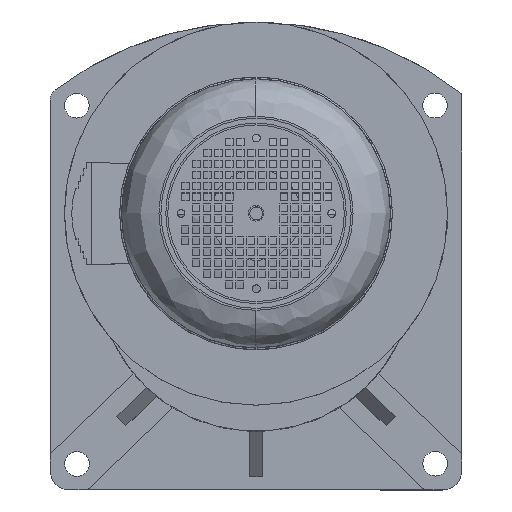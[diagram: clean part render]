
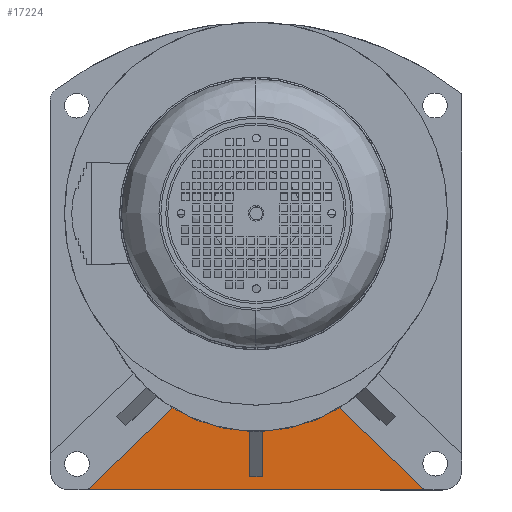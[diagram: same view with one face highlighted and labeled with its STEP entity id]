
A CAD part, top view. The second image highlights one B-rep face of the part: STEP entity #17224.
In plain terms, the highlighted planar face has unit normal (0, 0, 1).
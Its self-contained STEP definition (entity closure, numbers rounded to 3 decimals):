
#229 = ORIENTED_EDGE ( 'NONE', *, *, #18100, .T. ) ;
#1314 = VERTEX_POINT ( 'NONE', #8052 ) ;
#1426 = CARTESIAN_POINT ( 'NONE',  ( 129.821, -158., 17. ) ) ;
#1686 = CARTESIAN_POINT ( 'NONE',  ( 129.821, -158., 17. ) ) ;
#3013 = EDGE_CURVE ( 'NONE', #1314, #14337, #15826, .T. ) ;
#3484 = ORIENTED_EDGE ( 'NONE', *, *, #5063, .T. ) ;
#4590 = VECTOR ( 'NONE', #28333, 1000. ) ;
#4619 = ORIENTED_EDGE ( 'NONE', *, *, #31774, .F. ) ;
#5063 = EDGE_CURVE ( 'NONE', #9694, #1314, #22729, .T. ) ;
#5204 = FACE_OUTER_BOUND ( 'NONE', #26201, .T. ) ;
#6686 = VERTEX_POINT ( 'NONE', #35678 ) ;
#7074 = AXIS2_PLACEMENT_3D ( 'NONE', #9120, #9032, #8977 ) ;
#7200 = CARTESIAN_POINT ( 'NONE',  ( -64.101, -94.803, 17. ) ) ;
#7623 = DIRECTION ( 'NONE',  ( -0.721, 0.693, 0. ) ) ;
#8052 = CARTESIAN_POINT ( 'NONE',  ( 5., -148., 17. ) ) ;
#8977 = DIRECTION ( 'NONE',  ( -1., 0., 0. ) ) ;
#9032 = DIRECTION ( 'NONE',  ( 0., 0., 1. ) ) ;
#9120 = CARTESIAN_POINT ( 'NONE',  ( 0., 9.002, 17. ) ) ;
#9298 = LINE ( 'NONE', #1686, #37622 ) ;
#9403 = CIRCLE ( 'NONE', #7074, 122.002 ) ;
#9572 = EDGE_CURVE ( 'NONE', #14337, #12061, #32971, .T. ) ;
#9608 = CARTESIAN_POINT ( 'NONE',  ( -143.5, -158., 17. ) ) ;
#9694 = VERTEX_POINT ( 'NONE', #23722 ) ;
#9746 = DIRECTION ( 'NONE',  ( 1., 0., 0. ) ) ;
#10956 = VERTEX_POINT ( 'NONE', #7200 ) ;
#11320 = LINE ( 'NONE', #9608, #18313 ) ;
#12061 = VERTEX_POINT ( 'NONE', #26340 ) ;
#12854 = EDGE_CURVE ( 'NONE', #10956, #12061, #9403, .T. ) ;
#13370 = CARTESIAN_POINT ( 'NONE',  ( -129.821, -158., 17. ) ) ;
#13450 = DIRECTION ( 'NONE',  ( -0.721, -0.693, 0. ) ) ;
#14055 = CARTESIAN_POINT ( 'NONE',  ( 5., -143., 17. ) ) ;
#14144 = ORIENTED_EDGE ( 'NONE', *, *, #9572, .T. ) ;
#14337 = VERTEX_POINT ( 'NONE', #35379 ) ;
#14959 = DIRECTION ( 'NONE',  ( -1., 0., 0. ) ) ;
#15053 = CARTESIAN_POINT ( 'NONE',  ( -143.5, -148., 17. ) ) ;
#15088 = CIRCLE ( 'NONE', #40056, 122.002 ) ;
#15826 = LINE ( 'NONE', #15053, #22895 ) ;
#16091 = ORIENTED_EDGE ( 'NONE', *, *, #19107, .T. ) ;
#16771 = AXIS2_PLACEMENT_3D ( 'NONE', #32139, #32100, #32057 ) ;
#17224 = ADVANCED_FACE ( 'NONE', ( #5204 ), #32561, .T. ) ;
#18100 = EDGE_CURVE ( 'NONE', #10956, #22677, #31268, .T. ) ;
#18313 = VECTOR ( 'NONE', #9746, 1000. ) ;
#19107 = EDGE_CURVE ( 'NONE', #24553, #6686, #9298, .T. ) ;
#21838 = VECTOR ( 'NONE', #26589, 1000. ) ;
#22677 = VERTEX_POINT ( 'NONE', #31277 ) ;
#22729 = LINE ( 'NONE', #14055, #4590 ) ;
#22895 = VECTOR ( 'NONE', #14959, 1000. ) ;
#23722 = CARTESIAN_POINT ( 'NONE',  ( 5., -112.897, 17. ) ) ;
#24067 = ORIENTED_EDGE ( 'NONE', *, *, #33037, .T. ) ;
#24553 = VERTEX_POINT ( 'NONE', #1426 ) ;
#25746 = DIRECTION ( 'NONE',  ( -1., 0., 0. ) ) ;
#25845 = DIRECTION ( 'NONE',  ( 0., 0., 1. ) ) ;
#25894 = CARTESIAN_POINT ( 'NONE',  ( 0., 9.002, 17. ) ) ;
#26201 = EDGE_LOOP ( 'NONE', ( #3484, #26310, #14144, #36773, #229, #24067, #16091, #4619 ) ) ;
#26310 = ORIENTED_EDGE ( 'NONE', *, *, #3013, .T. ) ;
#26340 = CARTESIAN_POINT ( 'NONE',  ( -5., -112.897, 17. ) ) ;
#26352 = CARTESIAN_POINT ( 'NONE',  ( -5., -143., 17. ) ) ;
#26589 = DIRECTION ( 'NONE',  ( 0., 1., 0. ) ) ;
#28333 = DIRECTION ( 'NONE',  ( 0., -1., 0. ) ) ;
#30225 = VECTOR ( 'NONE', #13450, 1000. ) ;
#31268 = LINE ( 'NONE', #13370, #30225 ) ;
#31277 = CARTESIAN_POINT ( 'NONE',  ( -129.821, -158., 17. ) ) ;
#31774 = EDGE_CURVE ( 'NONE', #9694, #6686, #15088, .T. ) ;
#32057 = DIRECTION ( 'NONE',  ( 1., 0., 0. ) ) ;
#32100 = DIRECTION ( 'NONE',  ( 0., 0., 1. ) ) ;
#32139 = CARTESIAN_POINT ( 'NONE',  ( -143.5, -143., 17. ) ) ;
#32561 = PLANE ( 'NONE',  #16771 ) ;
#32971 = LINE ( 'NONE', #26352, #21838 ) ;
#33037 = EDGE_CURVE ( 'NONE', #22677, #24553, #11320, .T. ) ;
#35379 = CARTESIAN_POINT ( 'NONE',  ( -5., -148., 17. ) ) ;
#35678 = CARTESIAN_POINT ( 'NONE',  ( 64.101, -94.803, 17. ) ) ;
#36773 = ORIENTED_EDGE ( 'NONE', *, *, #12854, .F. ) ;
#37622 = VECTOR ( 'NONE', #7623, 1000. ) ;
#40056 = AXIS2_PLACEMENT_3D ( 'NONE', #25894, #25845, #25746 ) ;
